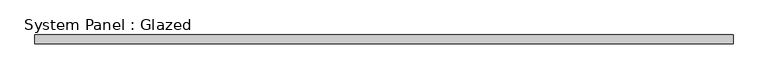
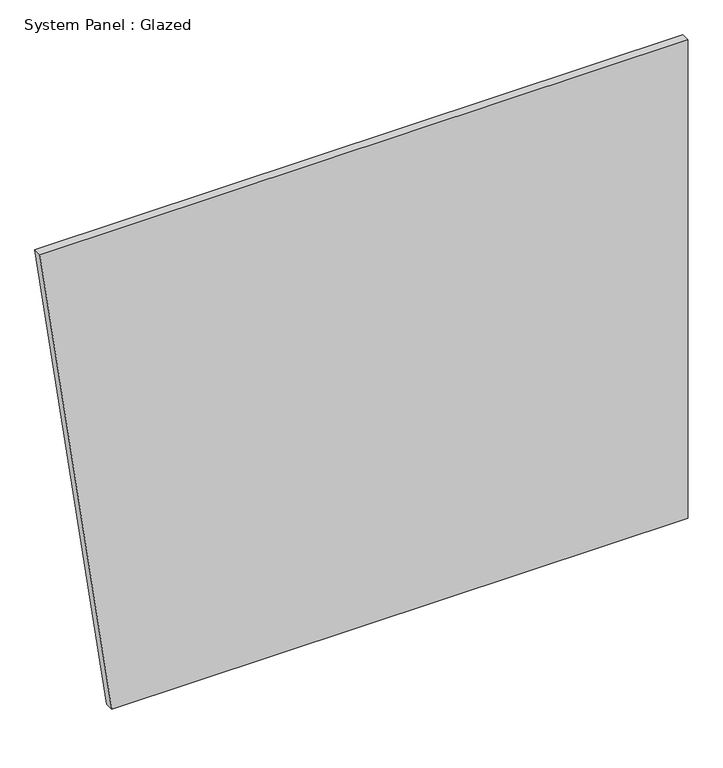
"""IFC4 building model written with IfcOpenShell, lengths in millimetres: plate geometry, System Panel : Glazed."""

from ifc_helpers import new_model, si_unit, frame, origin, place, context, project, spatial, polyline, outline, extrude, source, transform, mapped, element, save


def system_panel_glazed_f30f126a(model_context):
    return source(origin(), model_context, "Body", "SweptSolid", [
        extrude(outline(polyline([(0.0, -759.658743), (0.0, 976.7040981), (1524.0, 976.7040981), (1524.0, -976.7040981), (0.0, -759.658743)])), frame((0.0, 19.05, 0.0), z_axis=(0.0, 1.0, 0.0), x_axis=(0.0, 0.0, 1.0)), (0.0, 0.0, 1.0), 25.4),
    ])


if __name__ == "__main__":
    model = new_model("IFC4")
    model_context = context("Model", 3, world=origin())
    ifc_project = project(units=[si_unit("LENGTHUNIT", "METRE", prefix="MILLI")], contexts=[model_context])
    site = spatial("IfcSite", under=ifc_project)
    building = spatial("IfcBuilding", under=site)
    placement = place(None, origin())
    system_panel_glazed_shape = system_panel_glazed_f30f126a(model_context)
    element("IfcPlate", 1, ObjectType="System Panel : Glazed", at=placement, inside=building, context=model_context, shape_type="MappedRepresentation", body=[
        mapped(system_panel_glazed_shape, transform((0.0, 0.0, 0.0), x_axis=(1.0, 0.0, 0.0), y_axis=(0.0, 1.0, 0.0), z_axis=(0.0, 0.0, 1.0))),
    ])
    save(model, "model.ifc")
